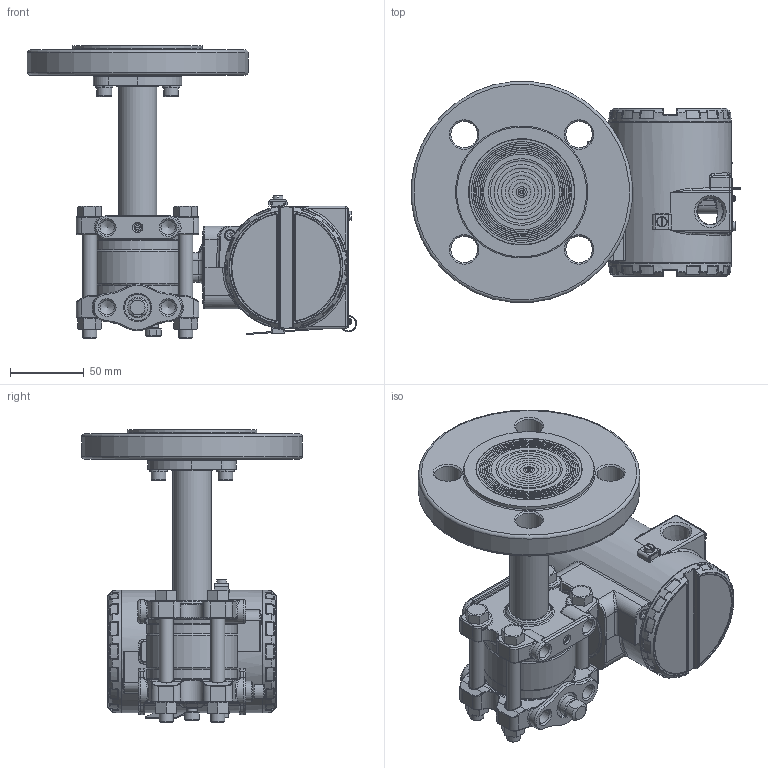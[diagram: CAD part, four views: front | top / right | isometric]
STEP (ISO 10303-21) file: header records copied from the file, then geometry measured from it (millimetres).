
FILE_DESCRIPTION(/* description */ (''),/* implementation_level */ '2;1');
FILE_NAME(/* name */ 'F:\Area\Desenvolvimento_2\Projects\Sensor\projetos\LD30X\montagens 3d - clientes\SELO NIVEL\LD30XL DN40 PN40 RF ref 1-4NPT purga acima.stp',/* time_stamp */ '2023-02-15T11:04:27-03:00',/* author */ ('inventor02'),/* organization */ (''),/* preprocessor_version */ 'ST-DEVELOPER v17',/* originating_system */ 'Autodesk Inventor 2019',/* authorisation */ '');
FILE_SCHEMA (('CONFIG_CONTROL_DESIGN'));
Products named in the file (38): LD30XL DN40 PN40 RF ref 1-4NPT purga acima; 204-0301-L-DN40 PN40 RF purga acima; nivel fx3 com baixa diferencial 1-4NPT purga acima; involucro fx0-3 apos a usinagem final; flange diferencial std purga; 101-C-7484-01 flange selo nivel VR; 201-A-0504-tubo união teste 1; bujao 1-4NPT; Sangria; Porca 3-8 x 16 UNC; Paraf. 3-8 x 16 UNC; adaptação tubo x flanges 1-1-2 a 4pol; 101-B-0161-anel cortado do tubo - teste1; 101-B-0162-flange fixação tubo; ANSI B18.3.1M - M6x1 x 16; DIN 127 - A 6; 101-C-0207-11; carcaça vazia com tampas e plaqueta; carcaça LD inox sem letras; Subconjunto plaqueta 300; Plaqueta transmissor; Parafuso da Plaqueta; Rebite da Plaqueta; 096-A-0169-03; 101-A-0502-01; Chapa aterramento externo; ISO 1207 - M4 x 8; DIN 915 - M6 x 10; ANSI B18.3.1M - M4x0,7 x 8; Subconjunto tampa com visor aluminio; tampa pintada; VIDRO DO VISOR; oring 41x1 vidro tampa; Trava do vidro da tampa com visor; trava do vidro VH256; Subconjunto tampa sem visor-aluminio; tampa cega 300 pintada p0; 00034775-0
Assembly tree (48 placements, depth 4):
  LD30XL DN40 PN40 RF ref 1-4NPT purga acima
    204-0301-L-DN40 PN40 RF purga acima
      nivel fx3 com baixa diferencial 1-4NPT purga acima
        involucro fx0-3 apos a usinagem final
        flange diferencial std purga
        101-C-7484-01 flange selo nivel VR
        201-A-0504-tubo união teste 1
        DIN 915 - M6 x 10
        bujao 1-4NPT
        Sangria
        Porca 3-8 x 16 UNC  x4
        Paraf. 3-8 x 16 UNC  x4
      adaptação tubo x flanges 1-1-2 a 4pol
        101-B-0161-anel cortado do tubo - teste1
        101-B-0162-flange fixação tubo
        ANSI B18.3.1M - M6x1 x 16  x2
        DIN 127 - A 6  x2
      101-C-0207-11
    carcaça vazia com tampas e plaqueta
      carcaça LD inox sem letras
      Subconjunto plaqueta 300
        Plaqueta transmissor
        Parafuso da Plaqueta
        Rebite da Plaqueta
        096-A-0169-03
        101-A-0502-01
      Chapa aterramento externo
      ISO 1207 - M4 x 8
      DIN 915 - M6 x 10
      ANSI B18.3.1M - M4x0,7 x 8  x2
      Subconjunto tampa com visor aluminio
        tampa pintada
        VIDRO DO VISOR
        oring 41x1 vidro tampa
        Trava do vidro da tampa com visor
        trava do vidro VH256
        00034775-0
      Subconjunto tampa sem visor-aluminio
        tampa cega 300 pintada p0
        00034775-0
Bounding box: 223 x 149.43 x 198.3 mm (x, y, z)
Volume: 899940.4 mm3; surface area: 302138.3 mm2
Topology: 41 solids, 41 shells, 2672 faces, 6412 edges, 3778 vertices
Faces by surface type: bspline 666, cylinder 648, plane 542, torus 448, cone 242, sphere 126
Full cylindrical faces by diameter (mm): 2 x4, 2.1 x2, 2.459 x5, 2.5 x1, 2.642 x1, 2.7 x1, 2.8 x1, 3 x4, 3.242 x4, 3.5 x5, 3.571 x1, 4 x5, 4.3 x1, 4.4 x1, 4.917 x4, 5 x1, 5.5 x3, 6 x6, 6.647 x1, 7 x7, 7.087 x2, 7.6 x2, 7.798 x4, 8 x1, 8.7 x2, 9.525 x4, 9.728 x6, 10 x2, 10.5 x8, 10.719 x2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
Entity records: 92522 total; most frequent: CARTESIAN_POINT 34305, ORIENTED_EDGE 12004, DIRECTION 11949, EDGE_CURVE 6002, AXIS2_PLACEMENT_3D 5260, VERTEX_POINT 3584, CIRCLE 3104, EDGE_LOOP 2694
